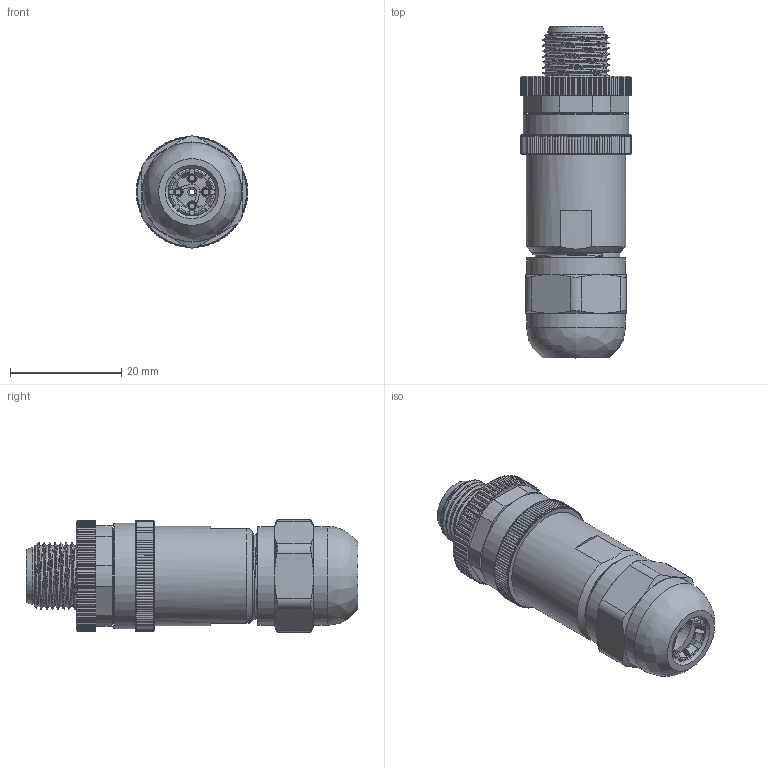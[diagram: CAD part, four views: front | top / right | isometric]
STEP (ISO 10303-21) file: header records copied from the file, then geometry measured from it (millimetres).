
FILE_DESCRIPTION(/* description */ (''),/* implementation_level */ '2;1');
FILE_NAME(/* name */ 'M12D-4MS.P-PG9_stp.stp',/* time_stamp */ '2024-09-04T08:58:17+08:00',/* author */ (''),/* organization */ (''),/* preprocessor_version */ 'ST-DEVELOPER v16.7',/* originating_system */ 'SIEMENS PLM Software NX 12.0',/* authorisation */ '');
FILE_SCHEMA (('AP203_CONFIGURATION_CONTROLLED_3D_DESIGN_OF_MECHANICAL_PARTS_AND_ASSEMBLIES_MIM_LF { 1 0 10303 403 2 1 2}'));
Products named in the file (1): lyj0B5CE8DD9irt
Bounding box: 20 x 59.7 x 20.16 mm (x, y, z)
Surface area: 12673.3 mm2
Topology: 8 solids, 9 shells, 1292 faces, 3088 edges, 1852 vertices
Faces by surface type: cylinder 526, cone 357, plane 347, extrusion 25, torus 17, bspline 14, sphere 6
Full cylindrical faces by diameter (mm): 1 x13, 1.2 x8, 1.4 x4, 1.5 x13, 2 x4, 8.3 x2, 8.5 x1, 8.6 x1, 9.4 x1, 9.5 x1, 9.7 x1, 10 x1, 10.2 x1, 10.8 x1, 11.3 x2, 11.6 x1, 12.1 x1, 12.7 x1, 13.2 x3, 13.4 x1, 13.8 x1, 13.9 x1, 14.4 x1, 14.8 x11, 15.8 x2, 16.4 x1, 16.7 x1, 16.8 x1, 17 x1, 17.2 x4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
Entity records: 53175 total; most frequent: CARTESIAN_POINT 25014, DIRECTION 5884, ORIENTED_EDGE 5720, EDGE_CURVE 2860, AXIS2_PLACEMENT_3D 2391, VERTEX_POINT 1751, EDGE_LOOP 1453, ADVANCED_FACE 1271
